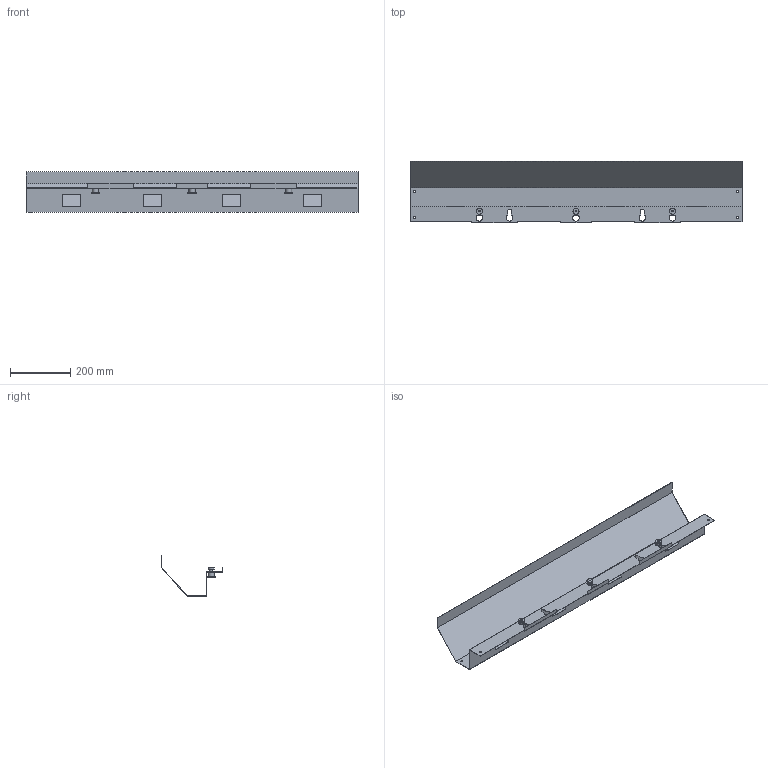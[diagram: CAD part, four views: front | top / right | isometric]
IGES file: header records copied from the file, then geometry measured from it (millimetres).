
Start section: Data from Parasolid IGES Translator 20.0.26, Copyright(c) 2006 Siemens P LM Software. All Rights Reserved.
Global section: file name: 9309803.igs; native system: By Siemens PLM Incorporated; preprocessor: XPlus GENERIC/IGES 20.0.26; author: Noname; organization: Noname; date: 20211203.151953; units: millimetre
Bounding box: 1100 x 205 x 134.53 mm (x, y, z)
Surface area: 799607.6 mm2 (no closed solid volume)
Topology: 0 solids, 0 shells, 119 faces, 654 edges, 631 vertices
Faces by surface type: extrusion 73, revolution 46
